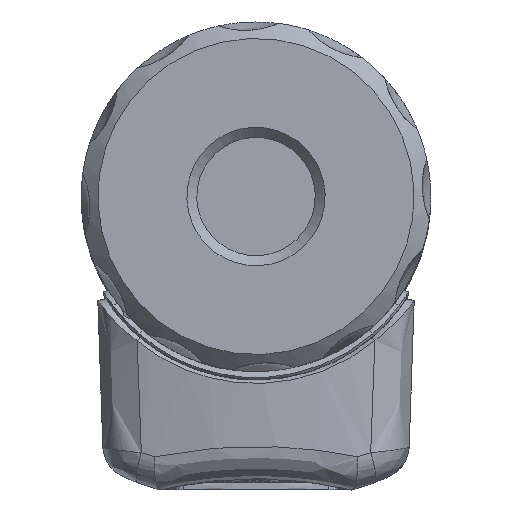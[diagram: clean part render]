
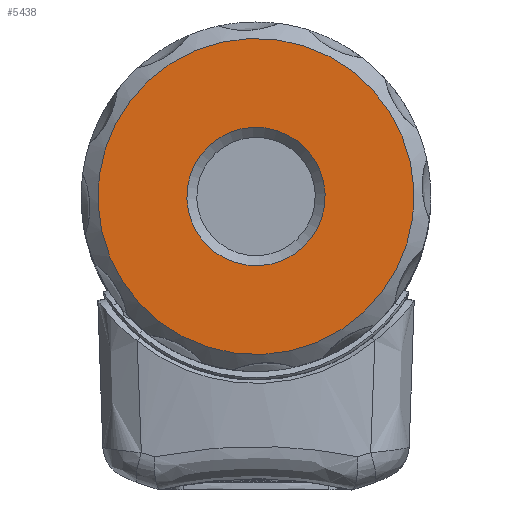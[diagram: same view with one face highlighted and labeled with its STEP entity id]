
A CAD part, top view. The second image highlights one B-rep face of the part: STEP entity #5438.
In plain terms, the highlighted planar face has unit normal (0, 0, 1).
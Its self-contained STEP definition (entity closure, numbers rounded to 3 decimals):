
#4156=PLANE('',#17324);
#4443=FACE_BOUND('',#7196,.T.);
#4444=FACE_BOUND('',#7197,.T.);
#5438=ADVANCED_FACE('',(#4443,#4444),#4156,.T.);
#7196=EDGE_LOOP('',(#9138));
#7197=EDGE_LOOP('',(#9139));
#9138=ORIENTED_EDGE('',*,*,#14846,.T.);
#9139=ORIENTED_EDGE('',*,*,#14849,.T.);
#13137=VERTEX_POINT('',#23652);
#13140=VERTEX_POINT('',#23695);
#14846=EDGE_CURVE('',#13137,#13137,#16634,.T.);
#14849=EDGE_CURVE('',#13140,#13140,#16635,.T.);
#16634=CIRCLE('',#17319,4.158);
#16635=CIRCLE('',#17323,9.5);
#17319=AXIS2_PLACEMENT_3D('',#23651,#18624,#18625);
#17323=AXIS2_PLACEMENT_3D('',#23694,#18632,#18633);
#17324=AXIS2_PLACEMENT_3D('',#23696,#18634,#18635);
#18624=DIRECTION('',(0.,0.,-1.));
#18625=DIRECTION('',(0.538,-0.843,0.));
#18632=DIRECTION('',(0.,0.,1.));
#18633=DIRECTION('',(0.538,-0.843,0.));
#18634=DIRECTION('',(0.,0.,1.));
#18635=DIRECTION('',(0.538,-0.843,0.));
#23651=CARTESIAN_POINT('',(0.,0.,58.925));
#23652=CARTESIAN_POINT('',(2.235,-3.506,58.925));
#23694=CARTESIAN_POINT('',(0.,0.,58.925));
#23695=CARTESIAN_POINT('',(5.108,-8.01,58.925));
#23696=CARTESIAN_POINT('',(0.,0.,58.925));
